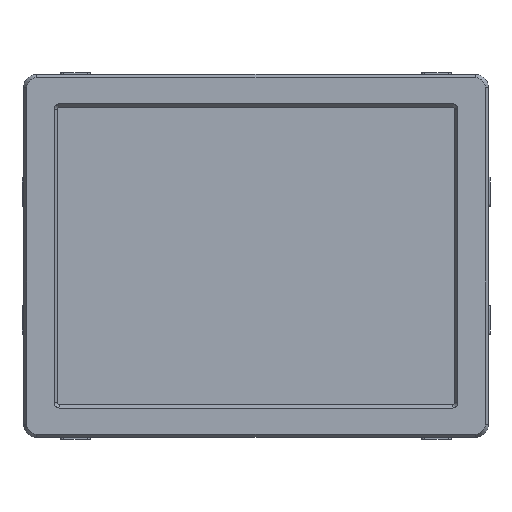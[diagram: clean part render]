
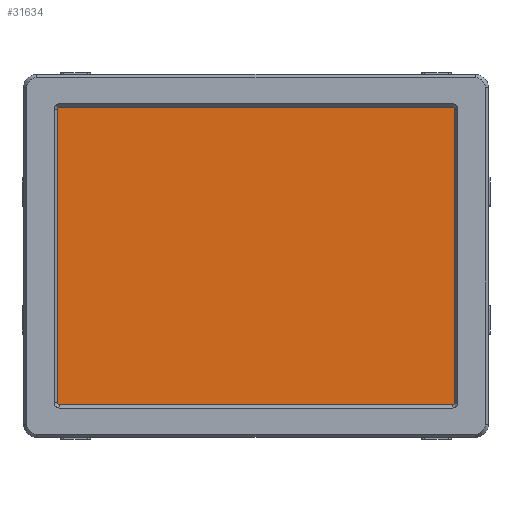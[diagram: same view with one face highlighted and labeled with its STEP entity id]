
A CAD part, top view. The second image highlights one B-rep face of the part: STEP entity #31634.
In plain terms, the highlighted planar face has unit normal (0, 0, 1).
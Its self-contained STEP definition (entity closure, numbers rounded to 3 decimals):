
#31634=ADVANCED_FACE('',(#58966),#58968,.T.);
#58966=FACE_BOUND('',#58967,.T.);
#58967=EDGE_LOOP('',(#80829,#80830,#80831,#80832,#80833,#80834,#80835,#80836));
#58968=PLANE('',#58969);
#58969=AXIS2_PLACEMENT_3D('',#58970,#58971,#58972);
#58970=CARTESIAN_POINT('',(38.128,140.,47.));
#58971=DIRECTION('',(0.,0.,1.));
#58972=DIRECTION('',(-1.,0.,0.));
#80829=ORIENTED_EDGE('',*,*,#90412,.T.);
#80830=ORIENTED_EDGE('',*,*,#90427,.T.);
#80831=ORIENTED_EDGE('',*,*,#90425,.T.);
#80832=ORIENTED_EDGE('',*,*,#90423,.T.);
#80833=ORIENTED_EDGE('',*,*,#90421,.T.);
#80834=ORIENTED_EDGE('',*,*,#90419,.T.);
#80835=ORIENTED_EDGE('',*,*,#90417,.T.);
#80836=ORIENTED_EDGE('',*,*,#90415,.T.);
#90412=EDGE_CURVE('',#106351,#106352,#106353,.F.);
#90415=EDGE_CURVE('',#106356,#106351,#106357,.T.);
#90417=EDGE_CURVE('',#106359,#106356,#106360,.F.);
#90419=EDGE_CURVE('',#106362,#106359,#106363,.T.);
#90421=EDGE_CURVE('',#106365,#106362,#106366,.F.);
#90423=EDGE_CURVE('',#106368,#106365,#106369,.T.);
#90425=EDGE_CURVE('',#106371,#106368,#106372,.F.);
#90427=EDGE_CURVE('',#106352,#106371,#106374,.T.);
#106351=VERTEX_POINT('',#143568);
#106352=VERTEX_POINT('',#143569);
#106353=LINE('',#143570,#143571);
#106356=VERTEX_POINT('',#143579);
#106357=CIRCLE('',#143580,1.5);
#106359=VERTEX_POINT('',#143587);
#106360=LINE('',#143588,#143589);
#106362=VERTEX_POINT('',#143594);
#106363=CIRCLE('',#143595,1.5);
#106365=VERTEX_POINT('',#143602);
#106366=LINE('',#143603,#143604);
#106368=VERTEX_POINT('',#143609);
#106369=CIRCLE('',#143610,1.5);
#106371=VERTEX_POINT('',#143617);
#106372=LINE('',#143618,#143619);
#106374=CIRCLE('',#143624,1.5);
#143568=CARTESIAN_POINT('',(-112.5,26.,47.));
#143569=CARTESIAN_POINT('',(188.628,26.,47.));
#143570=CARTESIAN_POINT('',(188.628,26.,47.));
#143571=VECTOR('',#143572,1.);
#143572=DIRECTION('',(-1.,0.,0.));
#143579=CARTESIAN_POINT('',(-114.,27.5,47.));
#143580=AXIS2_PLACEMENT_3D('',#143581,#143582,#143583);
#143581=CARTESIAN_POINT('',(-112.5,27.5,47.));
#143582=DIRECTION('',(0.,0.,1.));
#143583=DIRECTION('',(-1.,0.,0.));
#143587=CARTESIAN_POINT('',(-114.,252.596,47.));
#143588=CARTESIAN_POINT('',(-114.,27.5,47.));
#143589=VECTOR('',#143590,1.);
#143590=DIRECTION('',(0.,1.,0.));
#143594=CARTESIAN_POINT('',(-112.5,254.096,47.));
#143595=AXIS2_PLACEMENT_3D('',#143596,#143597,#143598);
#143596=CARTESIAN_POINT('',(-112.5,252.596,47.));
#143597=DIRECTION('',(0.,0.,1.));
#143598=DIRECTION('',(0.,1.,0.));
#143602=CARTESIAN_POINT('',(188.628,254.096,47.));
#143603=CARTESIAN_POINT('',(-112.5,254.096,47.));
#143604=VECTOR('',#143605,1.);
#143605=DIRECTION('',(1.,0.,0.));
#143609=CARTESIAN_POINT('',(190.128,252.596,47.));
#143610=AXIS2_PLACEMENT_3D('',#143611,#143612,#143613);
#143611=CARTESIAN_POINT('',(188.628,252.596,47.));
#143612=DIRECTION('',(0.,0.,1.));
#143613=DIRECTION('',(1.,0.,0.));
#143617=CARTESIAN_POINT('',(190.128,27.5,47.));
#143618=CARTESIAN_POINT('',(190.128,252.596,47.));
#143619=VECTOR('',#143620,1.);
#143620=DIRECTION('',(0.,-1.,0.));
#143624=AXIS2_PLACEMENT_3D('',#143625,#143626,#143627);
#143625=CARTESIAN_POINT('',(188.628,27.5,47.));
#143626=DIRECTION('',(0.,0.,1.));
#143627=DIRECTION('',(0.,-1.,0.));
